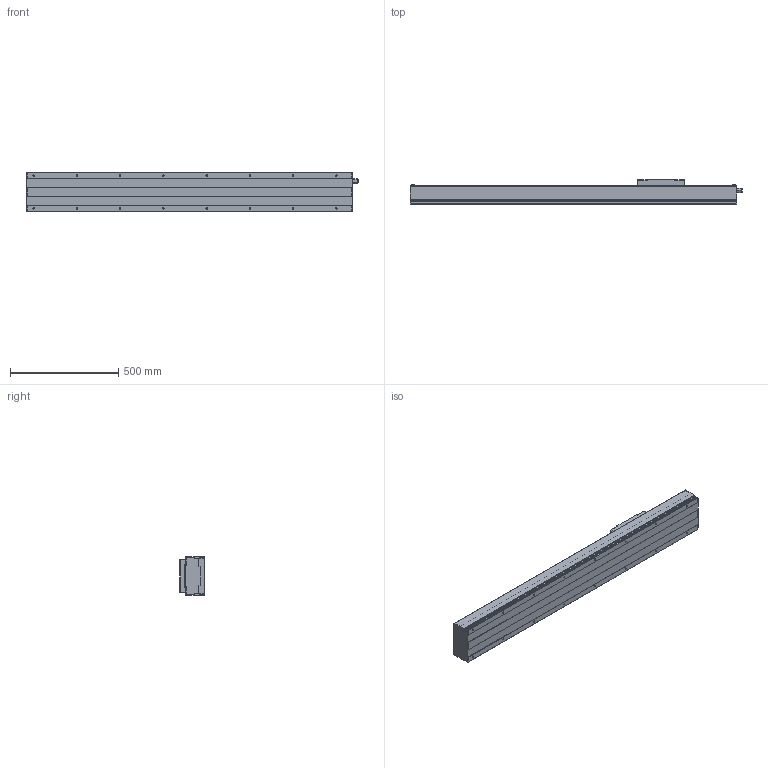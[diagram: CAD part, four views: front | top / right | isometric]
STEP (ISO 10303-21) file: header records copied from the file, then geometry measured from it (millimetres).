
FILE_DESCRIPTION(/* description */ (''),/* implementation_level */ '2;1');
FILE_NAME(/* name */ 'D:\混合母檔20191031\混和母檔\混和母檔\bin\Debug\Download\3D\KS180-20C-1000AFI\KS180-20C-1000AFI.stp',/* time_stamp */ '2019-11-04T16:22:14+08:00',/* author */ ('user'),/* organization */ (''),/* preprocessor_version */ 'ST-DEVELOPER v16.13',/* originating_system */ 'Autodesk Inventor 2018',/* authorisation */ '');
FILE_SCHEMA (('AUTOMOTIVE_DESIGN { 1 0 10303 214 3 1 1 }'));
Length unit declared in the file: millimetre
Products named in the file (3): KS180-20C-1000AFI; KS180-FI; KS180-SL
Assembly tree (2 placements, depth 2):
  KS180-20C-1000AFI
    KS180-FI
    KS180-SL
Bounding box: 1534.5 x 118 x 180 mm (x, y, z)
Volume: 8653767.3 mm3; surface area: 1847019.5 mm2
Topology: 4 solids, 8 shells, 742 faces, 1978 edges, 1290 vertices
Faces by surface type: plane 408, bspline 136, cylinder 90, cone 88, torus 16, sphere 4
Full cylindrical faces by diameter (mm): 3.571 x4, 4 x4, 4.134 x4, 4.5 x4, 6 x6, 6.647 x16, 8 x6, 8.016 x1, 8.4 x4, 9.4 x4, 12 x2, 13.1 x1, 15 x1, 18.75 x2, 46 x1, 50 x1
Entity records: 26619 total; most frequent: CARTESIAN_POINT 9360, ORIENTED_EDGE 3690, DIRECTION 3102, EDGE_CURVE 1844, VERTEX_POINT 1261, LINE 1176, VECTOR 1176, AXIS2_PLACEMENT_3D 963
